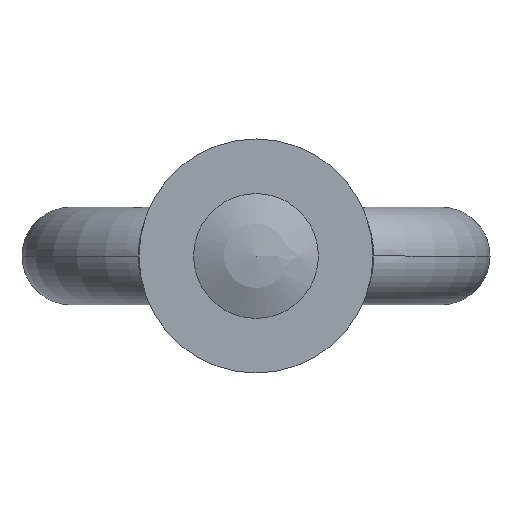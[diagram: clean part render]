
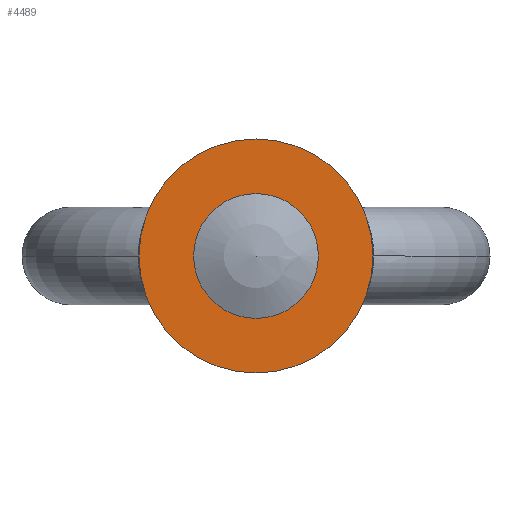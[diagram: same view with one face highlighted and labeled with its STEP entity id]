
A CAD part, front view. The second image highlights one B-rep face of the part: STEP entity #4489.
In plain terms, the highlighted planar face has unit normal (0, -1, 0).
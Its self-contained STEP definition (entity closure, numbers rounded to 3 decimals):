
#214 = EDGE_CURVE ( 'NONE', #5061, #3005, #1478, .T. ) ;
#1478 = CIRCLE ( 'NONE', #1479, 7.5 ) ;
#1479 = AXIS2_PLACEMENT_3D ( 'NONE', #1480, #1481, #1482 ) ;
#1480 = CARTESIAN_POINT ( 'NONE',  ( 0., -30., 0. ) ) ;
#1481 = DIRECTION ( 'NONE',  ( 0., 1., 0. ) ) ;
#1482 = DIRECTION ( 'NONE',  ( 0., 0., -1. ) ) ;
#2513 = ORIENTED_EDGE ( 'NONE', *, *, #4834, .F. ) ;
#2824 = EDGE_LOOP ( 'NONE', ( #2513, #5801 ) ) ;
#3005 = VERTEX_POINT ( 'NONE', #5543 ) ;
#3038 = EDGE_CURVE ( 'NONE', #3005, #5061, #5550, .T. ) ;
#3363 = ORIENTED_EDGE ( 'NONE', *, *, #3038, .T. ) ;
#3820 = ORIENTED_EDGE ( 'NONE', *, *, #214, .T. ) ;
#4185 = FACE_BOUND ( 'NONE', #4279, .T. ) ;
#4186 = FACE_OUTER_BOUND ( 'NONE', #2824, .T. ) ;
#4187 = PLANE ( 'NONE',  #4188 ) ;
#4188 = AXIS2_PLACEMENT_3D ( 'NONE', #4189, #4190, #4191 ) ;
#4189 = CARTESIAN_POINT ( 'NONE',  ( -15., -30., 0. ) ) ;
#4190 = DIRECTION ( 'NONE',  ( 0., -1., 0. ) ) ;
#4191 = DIRECTION ( 'NONE',  ( 0., 0., -1. ) ) ;
#4279 = EDGE_LOOP ( 'NONE', ( #3820, #3363 ) ) ;
#4489 = ADVANCED_FACE ( 'NONE', ( #4185, #4186 ), #4187, .T. ) ;
#4834 = EDGE_CURVE ( 'NONE', #5718, #5744, #5310, .T. ) ;
#5061 = VERTEX_POINT ( 'NONE', #5521 ) ;
#5310 = CIRCLE ( 'NONE', #5311, 15. ) ;
#5311 = AXIS2_PLACEMENT_3D ( 'NONE', #5312, #5313, #5314 ) ;
#5312 = CARTESIAN_POINT ( 'NONE',  ( 0., -30., 0. ) ) ;
#5313 = DIRECTION ( 'NONE',  ( 0., 1., 0. ) ) ;
#5314 = DIRECTION ( 'NONE',  ( 0., 0., 1. ) ) ;
#5332 = CARTESIAN_POINT ( 'NONE',  ( 0., -30., -15. ) ) ;
#5439 = CARTESIAN_POINT ( 'NONE',  ( 0., -30., 15. ) ) ;
#5516 = CIRCLE ( 'NONE', #5517, 15. ) ;
#5517 = AXIS2_PLACEMENT_3D ( 'NONE', #5518, #5519, #5520 ) ;
#5518 = CARTESIAN_POINT ( 'NONE',  ( 0., -30., 0. ) ) ;
#5519 = DIRECTION ( 'NONE',  ( 0., 1., 0. ) ) ;
#5520 = DIRECTION ( 'NONE',  ( 0., 0., 1. ) ) ;
#5521 = CARTESIAN_POINT ( 'NONE',  ( 0., -30., -7.5 ) ) ;
#5543 = CARTESIAN_POINT ( 'NONE',  ( 0., -30., 7.5 ) ) ;
#5550 = CIRCLE ( 'NONE', #5551, 7.5 ) ;
#5551 = AXIS2_PLACEMENT_3D ( 'NONE', #5552, #5553, #5554 ) ;
#5552 = CARTESIAN_POINT ( 'NONE',  ( 0., -30., 0. ) ) ;
#5553 = DIRECTION ( 'NONE',  ( 0., 1., 0. ) ) ;
#5554 = DIRECTION ( 'NONE',  ( 0., 0., -1. ) ) ;
#5718 = VERTEX_POINT ( 'NONE', #5332 ) ;
#5723 = EDGE_CURVE ( 'NONE', #5744, #5718, #5516, .T. ) ;
#5744 = VERTEX_POINT ( 'NONE', #5439 ) ;
#5801 = ORIENTED_EDGE ( 'NONE', *, *, #5723, .F. ) ;
